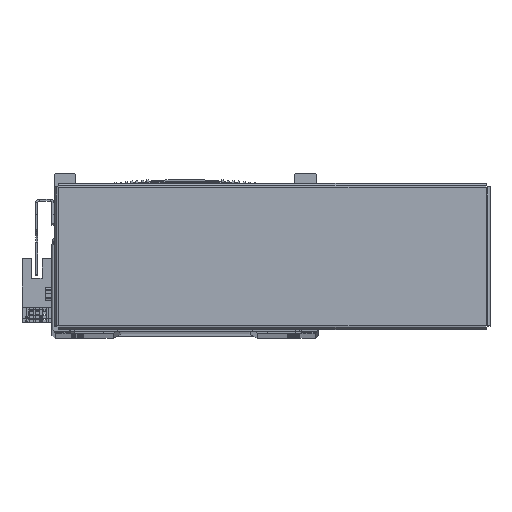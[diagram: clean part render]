
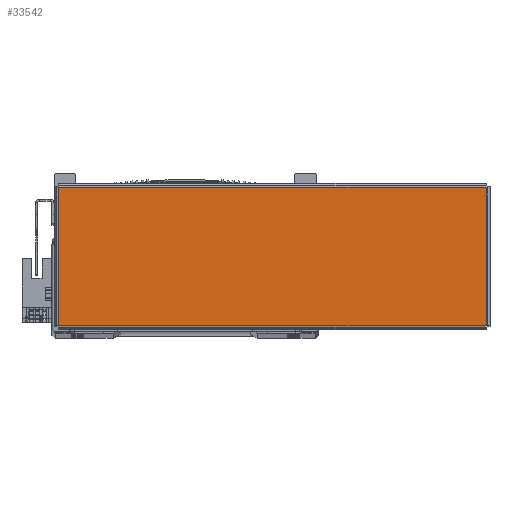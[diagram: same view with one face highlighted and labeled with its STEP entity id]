
A CAD part, top view. The second image highlights one B-rep face of the part: STEP entity #33542.
In plain terms, the highlighted planar face has unit normal (0, 0, 1) as drawn and (0, 0, -1) by its records, which use the part's own axes.
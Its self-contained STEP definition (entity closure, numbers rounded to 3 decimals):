
#7446 = ORIENTED_EDGE ( 'NONE', *, *, #66182, .T. ) ;
#7473 = ORIENTED_EDGE ( 'NONE', *, *, #66167, .T. ) ;
#16824 = FACE_OUTER_BOUND ( 'NONE', #26435, .T. ) ;
#18215 = LINE ( 'NONE', #40715, #18392 ) ;
#18392 = VECTOR ( 'NONE', #40765, 1000. ) ;
#26435 = EDGE_LOOP ( 'NONE', ( #74456, #7446, #7473, #74459 ) ) ;
#33542 = ADVANCED_FACE ( 'NONE', ( #16824 ), #77226, .F. ) ;
#40715 = CARTESIAN_POINT ( 'NONE',  ( 97.863, 31.793, -1. ) ) ;
#40765 = DIRECTION ( 'NONE',  ( 0., -1., 0. ) ) ;
#40889 = DIRECTION ( 'NONE',  ( 0., 1., 0. ) ) ;
#40936 = CARTESIAN_POINT ( 'NONE',  ( -97.863, -31.793, -1. ) ) ;
#40941 = DIRECTION ( 'NONE',  ( -1., 0., 0. ) ) ;
#40959 = DIRECTION ( 'NONE',  ( 1., 0., 0. ) ) ;
#40968 = CARTESIAN_POINT ( 'NONE',  ( -97.893, 31.763, -1. ) ) ;
#40975 = CARTESIAN_POINT ( 'NONE',  ( 97.893, -31.763, -1. ) ) ;
#41458 = LINE ( 'NONE', #40968, #41494 ) ;
#41464 = LINE ( 'NONE', #40975, #41481 ) ;
#41472 = LINE ( 'NONE', #40936, #41473 ) ;
#41473 = VECTOR ( 'NONE', #40889, 1000. ) ;
#41481 = VECTOR ( 'NONE', #40941, 1000. ) ;
#41494 = VECTOR ( 'NONE', #40959, 1000. ) ;
#56473 = CARTESIAN_POINT ( 'NONE',  ( 97.863, -31.763, -1. ) ) ;
#56480 = CARTESIAN_POINT ( 'NONE',  ( -97.863, -31.763, -1. ) ) ;
#56483 = CARTESIAN_POINT ( 'NONE',  ( -97.863, 31.763, -1. ) ) ;
#56550 = CARTESIAN_POINT ( 'NONE',  ( 97.863, 31.763, -1. ) ) ;
#58771 = AXIS2_PLACEMENT_3D ( 'NONE', #77242, #77262, #77263 ) ;
#66100 = EDGE_CURVE ( 'NONE', #90415, #90225, #18215, .T. ) ;
#66167 = EDGE_CURVE ( 'NONE', #90290, #90229, #41472, .T. ) ;
#66178 = EDGE_CURVE ( 'NONE', #90229, #90415, #41458, .T. ) ;
#66182 = EDGE_CURVE ( 'NONE', #90225, #90290, #41464, .T. ) ;
#74456 = ORIENTED_EDGE ( 'NONE', *, *, #66100, .T. ) ;
#74459 = ORIENTED_EDGE ( 'NONE', *, *, #66178, .T. ) ;
#77226 = PLANE ( 'NONE',  #58771 ) ;
#77242 = CARTESIAN_POINT ( 'NONE',  ( 0., 0., -1. ) ) ;
#77262 = DIRECTION ( 'NONE',  ( 0., 0., 1. ) ) ;
#77263 = DIRECTION ( 'NONE',  ( 1., 0., 0. ) ) ;
#90225 = VERTEX_POINT ( 'NONE', #56473 ) ;
#90229 = VERTEX_POINT ( 'NONE', #56483 ) ;
#90290 = VERTEX_POINT ( 'NONE', #56480 ) ;
#90415 = VERTEX_POINT ( 'NONE', #56550 ) ;
